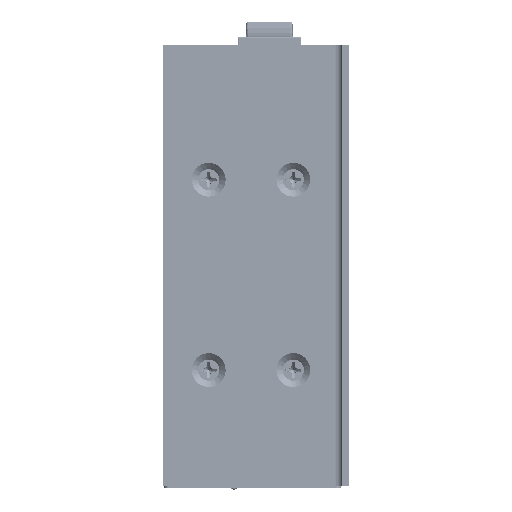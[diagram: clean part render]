
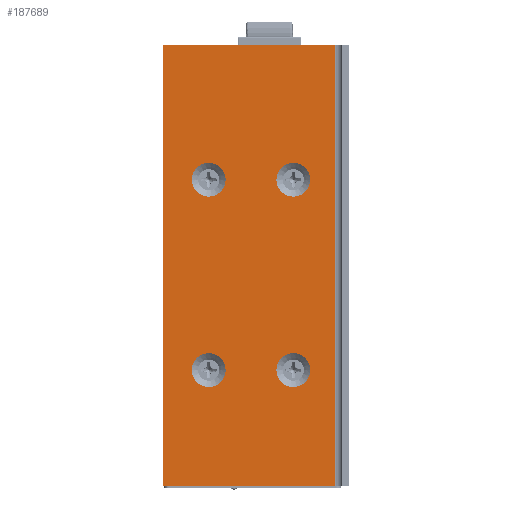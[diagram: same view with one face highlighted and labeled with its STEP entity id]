
A CAD part, left-side view. The second image highlights one B-rep face of the part: STEP entity #187689.
In plain terms, the highlighted planar face has unit normal (-1, 0, 0).
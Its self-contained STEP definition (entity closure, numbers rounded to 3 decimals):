
#3863=FACE_BOUND('',#23326,.T.);
#3864=FACE_BOUND('',#23327,.T.);
#3865=FACE_BOUND('',#23328,.T.);
#3866=FACE_BOUND('',#23329,.T.);
#4749=PLANE('',#197629);
#13478=FACE_OUTER_BOUND('',#23325,.T.);
#23325=EDGE_LOOP('',(#130183,#130184,#130185,#130186));
#23326=EDGE_LOOP('',(#130187));
#23327=EDGE_LOOP('',(#130188));
#23328=EDGE_LOOP('',(#130189));
#23329=EDGE_LOOP('',(#130190));
#34058=LINE('',#259427,#56652);
#34061=LINE('',#259433,#56655);
#34062=LINE('',#259435,#56656);
#34063=LINE('',#259436,#56657);
#56652=VECTOR('',#210728,2.442);
#56655=VECTOR('',#210733,10.);
#56656=VECTOR('',#210734,2.442);
#56657=VECTOR('',#210735,10.);
#79243=CIRCLE('',#197614,4.);
#79245=CIRCLE('',#197617,4.);
#79247=CIRCLE('',#197620,4.);
#79249=CIRCLE('',#197623,4.);
#82669=VERTEX_POINT('',#259391);
#82671=VERTEX_POINT('',#259397);
#82673=VERTEX_POINT('',#259403);
#82675=VERTEX_POINT('',#259409);
#82681=VERTEX_POINT('',#259424);
#82682=VERTEX_POINT('',#259426);
#82684=VERTEX_POINT('',#259432);
#82685=VERTEX_POINT('',#259434);
#101429=EDGE_CURVE('',#82669,#82669,#79243,.T.);
#101432=EDGE_CURVE('',#82671,#82671,#79245,.T.);
#101435=EDGE_CURVE('',#82673,#82673,#79247,.T.);
#101438=EDGE_CURVE('',#82675,#82675,#79249,.T.);
#101446=EDGE_CURVE('',#82682,#82681,#34058,.T.);
#101449=EDGE_CURVE('',#82681,#82684,#34061,.T.);
#101450=EDGE_CURVE('',#82685,#82684,#34062,.T.);
#101451=EDGE_CURVE('',#82685,#82682,#34063,.T.);
#130183=ORIENTED_EDGE('',*,*,#101449,.T.);
#130184=ORIENTED_EDGE('',*,*,#101450,.F.);
#130185=ORIENTED_EDGE('',*,*,#101451,.T.);
#130186=ORIENTED_EDGE('',*,*,#101446,.T.);
#130187=ORIENTED_EDGE('',*,*,#101429,.T.);
#130188=ORIENTED_EDGE('',*,*,#101432,.T.);
#130189=ORIENTED_EDGE('',*,*,#101435,.T.);
#130190=ORIENTED_EDGE('',*,*,#101438,.T.);
#187689=ADVANCED_FACE('',(#13478,#3863,#3864,#3865,#3866),#4749,.F.);
#197614=AXIS2_PLACEMENT_3D('',#259392,#210691,#210692);
#197617=AXIS2_PLACEMENT_3D('',#259398,#210698,#210699);
#197620=AXIS2_PLACEMENT_3D('',#259404,#210705,#210706);
#197623=AXIS2_PLACEMENT_3D('',#259410,#210712,#210713);
#197629=AXIS2_PLACEMENT_3D('',#259431,#210731,#210732);
#210691=DIRECTION('center_axis',(1.,0.,0.));
#210692=DIRECTION('ref_axis',(0.,-1.,0.));
#210698=DIRECTION('center_axis',(1.,0.,0.));
#210699=DIRECTION('ref_axis',(0.,-1.,0.));
#210705=DIRECTION('center_axis',(1.,0.,0.));
#210706=DIRECTION('ref_axis',(0.,-1.,0.));
#210712=DIRECTION('center_axis',(1.,0.,0.));
#210713=DIRECTION('ref_axis',(0.,-1.,0.));
#210728=DIRECTION('',(0.,-1.,0.));
#210731=DIRECTION('center_axis',(1.,0.,0.));
#210732=DIRECTION('ref_axis',(0.,0.,-1.));
#210733=DIRECTION('',(0.,0.,1.));
#210734=DIRECTION('',(0.,-1.,0.));
#210735=DIRECTION('',(0.,0.,-1.));
#259391=CARTESIAN_POINT('',(-13.65,17.2,-14.8));
#259392=CARTESIAN_POINT('Origin',(-13.65,13.2,-14.8));
#259397=CARTESIAN_POINT('',(-13.65,37.2,-14.8));
#259398=CARTESIAN_POINT('Origin',(-13.65,33.2,-14.8));
#259403=CARTESIAN_POINT('',(-13.65,37.2,-59.8));
#259404=CARTESIAN_POINT('Origin',(-13.65,33.2,-59.8));
#259409=CARTESIAN_POINT('',(-13.65,17.2,-59.8));
#259410=CARTESIAN_POINT('Origin',(-13.65,13.2,-59.8));
#259424=CARTESIAN_POINT('',(-13.65,3.3,-87.2));
#259426=CARTESIAN_POINT('',(-13.65,44.,-87.2));
#259427=CARTESIAN_POINT('',(-13.65,-4.372,-87.2));
#259431=CARTESIAN_POINT('Origin',(-13.65,21.732,-35.1));
#259432=CARTESIAN_POINT('',(-13.65,3.3,17.));
#259433=CARTESIAN_POINT('',(-13.65,3.3,-35.1));
#259434=CARTESIAN_POINT('',(-13.65,44.,17.));
#259435=CARTESIAN_POINT('',(-13.65,-4.372,17.));
#259436=CARTESIAN_POINT('',(-13.65,44.,17.));
